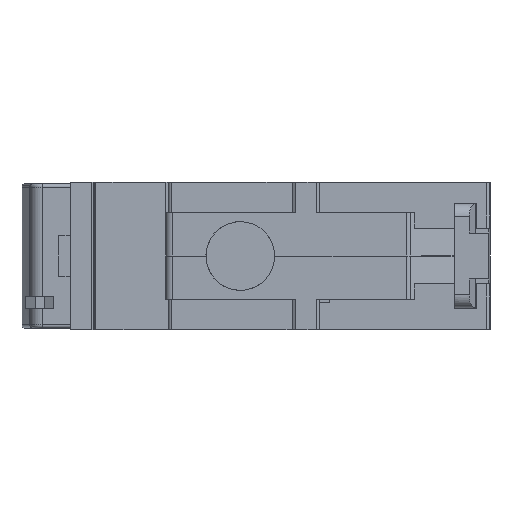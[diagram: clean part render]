
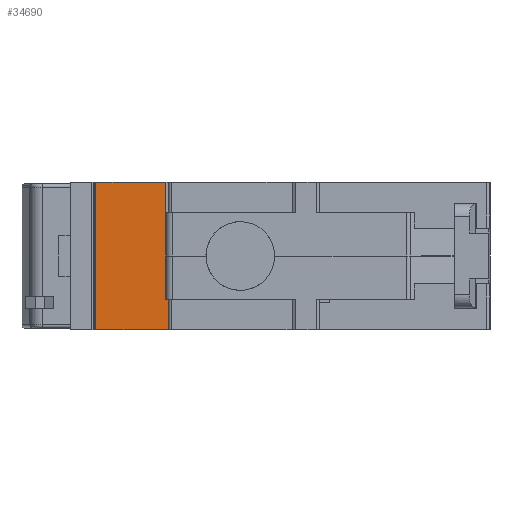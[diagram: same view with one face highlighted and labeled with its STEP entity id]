
A CAD part, left-side view. The second image highlights one B-rep face of the part: STEP entity #34690.
In plain terms, the highlighted planar face has unit normal (-1, 0, 0).
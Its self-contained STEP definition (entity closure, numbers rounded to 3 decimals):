
#303 = CARTESIAN_POINT ( 'NONE',  ( -22.5, 10.705, -11.25 ) ) ;
#2265 = DIRECTION ( 'NONE',  ( 0., 0., -1. ) ) ;
#3240 = CARTESIAN_POINT ( 'NONE',  ( -22.5, 0., 11.25 ) ) ;
#4193 = VECTOR ( 'NONE', #44415, 1000. ) ;
#5634 = LINE ( 'NONE', #17639, #27878 ) ;
#6772 = VECTOR ( 'NONE', #25258, 1000. ) ;
#9267 = PLANE ( 'NONE',  #50768 ) ;
#9988 = DIRECTION ( 'NONE',  ( 0., 1., 0. ) ) ;
#10163 = VERTEX_POINT ( 'NONE', #51871 ) ;
#10266 = CARTESIAN_POINT ( 'NONE',  ( -22.5, 0., 11.25 ) ) ;
#10501 = DIRECTION ( 'NONE',  ( 0., 0., -1. ) ) ;
#11999 = DIRECTION ( 'NONE',  ( 0., 0., -1. ) ) ;
#12248 = ORIENTED_EDGE ( 'NONE', *, *, #27818, .F. ) ;
#12341 = LINE ( 'NONE', #3240, #21137 ) ;
#12533 = VERTEX_POINT ( 'NONE', #20101 ) ;
#13869 = VERTEX_POINT ( 'NONE', #21267 ) ;
#14549 = EDGE_LOOP ( 'NONE', ( #36024, #37029, #48457, #20717, #12248, #39176, #30377 ) ) ;
#15066 = DIRECTION ( 'NONE',  ( 1., 0., 0. ) ) ;
#16393 = VERTEX_POINT ( 'NONE', #39761 ) ;
#17639 = CARTESIAN_POINT ( 'NONE',  ( -22.5, 0., -11.25 ) ) ;
#18504 = EDGE_CURVE ( 'NONE', #44062, #32217, #36453, .T. ) ;
#18601 = DIRECTION ( 'NONE',  ( 0., -1., 0. ) ) ;
#20101 = CARTESIAN_POINT ( 'NONE',  ( -22.5, -0.4, -11.25 ) ) ;
#20587 = EDGE_CURVE ( 'NONE', #16393, #25821, #21474, .T. ) ;
#20717 = ORIENTED_EDGE ( 'NONE', *, *, #32650, .F. ) ;
#21137 = VECTOR ( 'NONE', #2265, 1000. ) ;
#21267 = CARTESIAN_POINT ( 'NONE',  ( -22.5, -0.4, -6.65 ) ) ;
#21474 = LINE ( 'NONE', #33660, #24139 ) ;
#21788 = LINE ( 'NONE', #10266, #54799 ) ;
#22295 = CARTESIAN_POINT ( 'NONE',  ( -22.5, 0., 11.25 ) ) ;
#23389 = EDGE_CURVE ( 'NONE', #32217, #16393, #21788, .T. ) ;
#24139 = VECTOR ( 'NONE', #11999, 1000. ) ;
#25258 = DIRECTION ( 'NONE',  ( 0., 0., 1. ) ) ;
#25821 = VERTEX_POINT ( 'NONE', #40478 ) ;
#27818 = EDGE_CURVE ( 'NONE', #10163, #13869, #37181, .T. ) ;
#27878 = VECTOR ( 'NONE', #47777, 1000. ) ;
#30170 = CARTESIAN_POINT ( 'NONE',  ( -22.5, 10.705, 11.25 ) ) ;
#30377 = ORIENTED_EDGE ( 'NONE', *, *, #20587, .F. ) ;
#32217 = VERTEX_POINT ( 'NONE', #36760 ) ;
#32650 = EDGE_CURVE ( 'NONE', #13869, #12533, #41493, .T. ) ;
#33660 = CARTESIAN_POINT ( 'NONE',  ( -22.5, 0., 39. ) ) ;
#33872 = EDGE_CURVE ( 'NONE', #44062, #12533, #5634, .T. ) ;
#33974 = EDGE_CURVE ( 'NONE', #25821, #10163, #12341, .T. ) ;
#34690 = ADVANCED_FACE ( 'NONE', ( #44229 ), #9267, .F. ) ;
#36024 = ORIENTED_EDGE ( 'NONE', *, *, #23389, .F. ) ;
#36453 = LINE ( 'NONE', #30170, #6772 ) ;
#36760 = CARTESIAN_POINT ( 'NONE',  ( -22.5, 10.705, 11.25 ) ) ;
#37029 = ORIENTED_EDGE ( 'NONE', *, *, #18504, .F. ) ;
#37181 = LINE ( 'NONE', #47458, #4193 ) ;
#37425 = VECTOR ( 'NONE', #10501, 1000. ) ;
#39176 = ORIENTED_EDGE ( 'NONE', *, *, #33974, .F. ) ;
#39761 = CARTESIAN_POINT ( 'NONE',  ( -22.5, 0., 11.25 ) ) ;
#40478 = CARTESIAN_POINT ( 'NONE',  ( -22.5, 0., 0. ) ) ;
#41493 = LINE ( 'NONE', #53879, #37425 ) ;
#44062 = VERTEX_POINT ( 'NONE', #303 ) ;
#44229 = FACE_OUTER_BOUND ( 'NONE', #14549, .T. ) ;
#44415 = DIRECTION ( 'NONE',  ( 0., -1., 0. ) ) ;
#47458 = CARTESIAN_POINT ( 'NONE',  ( -22.5, 0., -6.65 ) ) ;
#47777 = DIRECTION ( 'NONE',  ( 0., -1., 0. ) ) ;
#48457 = ORIENTED_EDGE ( 'NONE', *, *, #33872, .T. ) ;
#50768 = AXIS2_PLACEMENT_3D ( 'NONE', #22295, #15066, #9988 ) ;
#51871 = CARTESIAN_POINT ( 'NONE',  ( -22.5, 0., -6.65 ) ) ;
#53879 = CARTESIAN_POINT ( 'NONE',  ( -22.5, -0.4, -6.65 ) ) ;
#54799 = VECTOR ( 'NONE', #18601, 1000. ) ;
